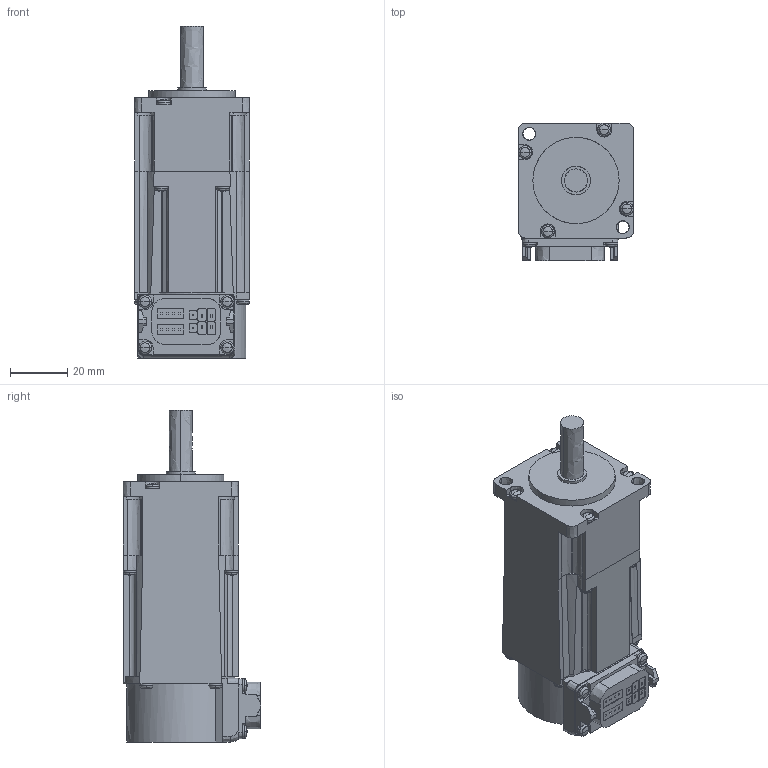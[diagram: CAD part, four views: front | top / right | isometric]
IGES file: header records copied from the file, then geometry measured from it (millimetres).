
Start section:  PTC IGES file: hk-kt053wb_-_asm.igs
Global section: file name: hk-kt053wb_-_asm.igs; native system: Creo Parametric by PTC Inc.; preprocessor: 2016380; author: XE90682; organization: Unknown; date: 20190116.093250; units: millimetre
Bounding box: 40 x 47.85 x 115.5 mm (x, y, z)
Volume: 129280.4 mm3; surface area: 19286.7 mm2
Topology: 1 solids, 1 shells, 464 faces, 1216 edges, 757 vertices
Faces by surface type: bspline 464
